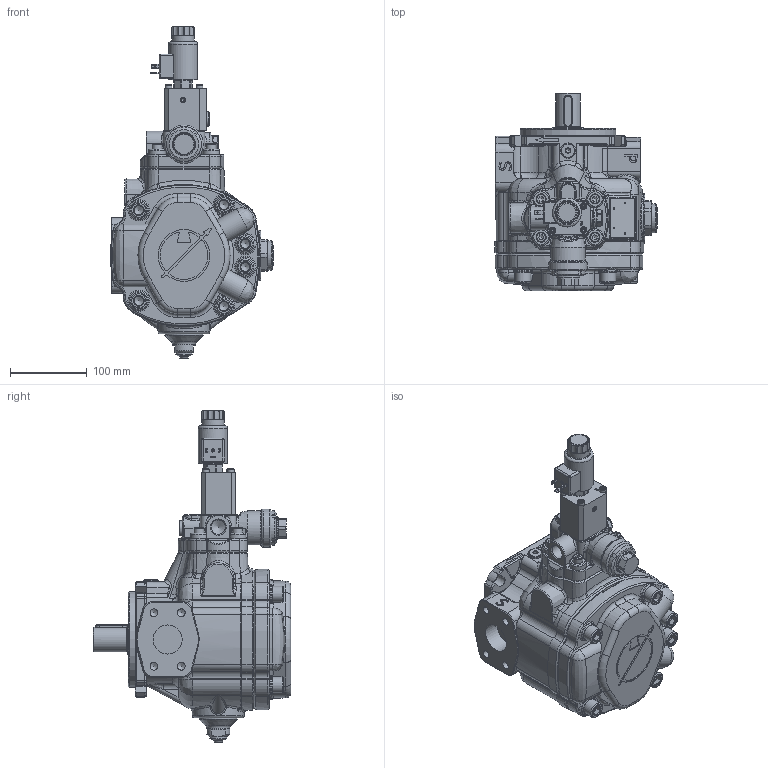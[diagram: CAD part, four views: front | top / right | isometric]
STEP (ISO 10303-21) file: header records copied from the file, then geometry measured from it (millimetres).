
FILE_DESCRIPTION(/* description */ (''),/* implementation_level */ '2;1');
FILE_NAME(/* name */ 'W:\Tecnico\Archivio\Berarma\Dimensioni Pompe\3D Export\Montaggio 3D semplificato\PLP-PHP 2\PHP 2 PCS005.stp',/* time_stamp */ '2018-10-09T16:46:58+02:00',/* author */ ('marcop'),/* organization */ (''),/* preprocessor_version */ 'ST-DEVELOPER v17',/* originating_system */ 'Autodesk Inventor 2018',/* authorisation */ '');
FILE_SCHEMA (('AUTOMOTIVE_DESIGN { 1 0 10303 214 3 1 1 }'));
Products named in the file (1): PLP - PHP 2_Shrinkwrap_1
Bounding box: 212.17 x 257.5 x 432.65 mm (x, y, z)
Volume: 5909505.7 mm3; surface area: 333439.3 mm2
Topology: 1 solids, 1 shells, 2063 faces, 5332 edges, 3315 vertices
Faces by surface type: plane 783, cylinder 476, bspline 357, torus 213, cone 196, sphere 38
Full cylindrical faces by diameter (mm): 1.6 x3, 1.7 x4, 2.5 x3, 3.242 x1, 4.3 x1, 8.376 x4, 8.5 x4, 10 x1, 10.106 x4, 12 x1, 13 x4, 15.5 x1, 16.789 x1, 17.805 x1, 17.84 x1, 18.631 x1, 18.999 x2, 19 x5, 19.2 x1, 20 x3, 21 x6, 22 x1, 22.857 x1, 25 x8, 28 x1, 29.21 x1, 30 x3, 31.5 x1, 32 x1, 37.75 x1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
Entity records: 76795 total; most frequent: CARTESIAN_POINT 26711, ORIENTED_EDGE 10536, DIRECTION 9505, EDGE_CURVE 5268, AXIS2_PLACEMENT_3D 3682, VERTEX_POINT 3315, EDGE_LOOP 2186, LINE 2141
